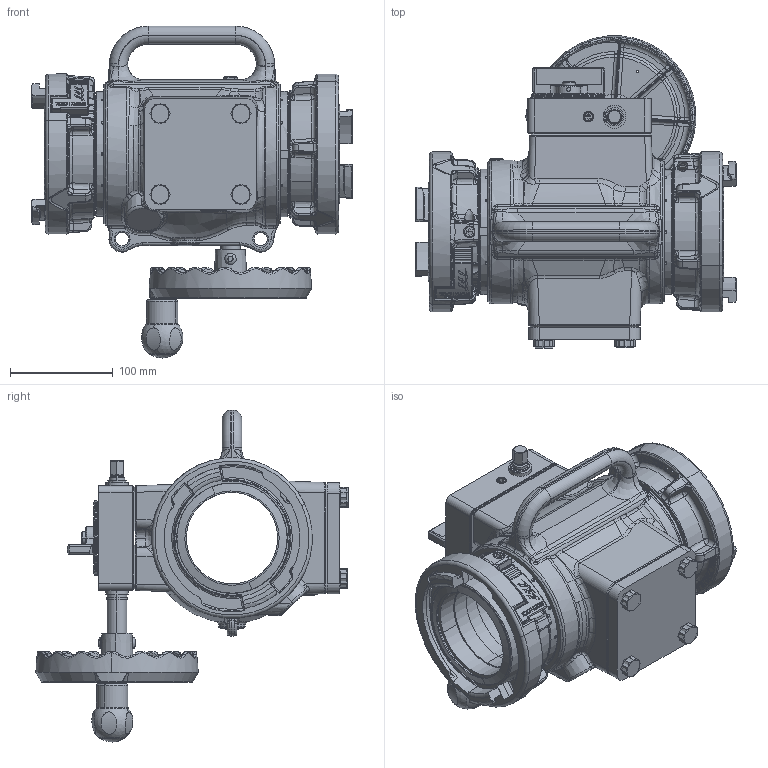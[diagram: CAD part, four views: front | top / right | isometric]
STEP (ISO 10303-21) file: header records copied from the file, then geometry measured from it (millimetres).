
FILE_DESCRIPTION (( 'STEP AP203' ), '1' );
FILE_NAME ('AN1P1P01.step', '2014-05-13T19:10:43', ( 'user' ), ( '' ), 'SwSTEP 2.0', 'SolidWorks 2012', '' );
FILE_SCHEMA (( 'CONFIG_CONTROL_DESIGN' ));
Products named in the file (1): AN1P1P01
Bounding box: 311.76 x 303.44 x 322.52 mm (x, y, z)
Surface area: 488358.4 mm2 (no closed solid volume)
Topology: 0 solids, 131 shells, 2840 faces, 12154 edges, 9091 vertices
Faces by surface type: bspline 883, plane 875, cylinder 504, cone 280, torus 276, sphere 22
Entity records: 182405 total; most frequent: CARTESIAN_POINT 95842, ORIENTED_EDGE 17568, DIRECTION 14647, EDGE_CURVE 12059, VERTEX_POINT 9089, VECTOR 5405, LINE 5405, AXIS2_PLACEMENT_3D 4621
